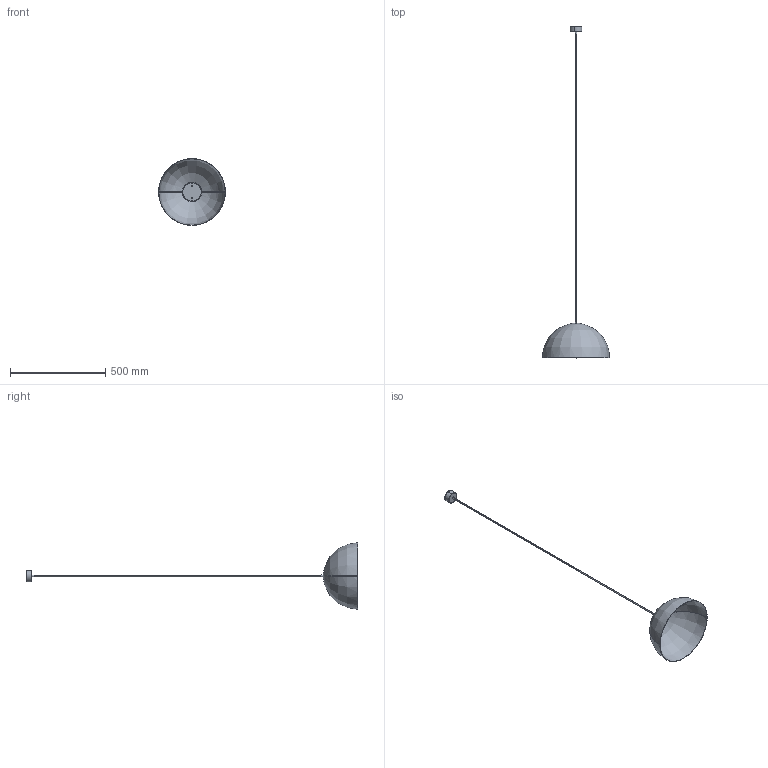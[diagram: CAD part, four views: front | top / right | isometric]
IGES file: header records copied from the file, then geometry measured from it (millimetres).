
Start section: SolidWorks IGES file using analytic representation for surfaces
Global section: file name: C:\Users\Maripaz\Desktop\C1082\c1082.IGS; native system: SolidWorks 2017; preprocessor: SolidWorks 2017; author: Maripaz; date: 190227.154442; units: millimetre
Bounding box: 350 x 1740 x 350 mm (x, y, z)
Surface area: 440422.8 mm2 (no closed solid volume)
Topology: 0 solids, 0 shells, 49 faces, 988 edges, 988 vertices
Faces by surface type: bspline 27, revolution 22
